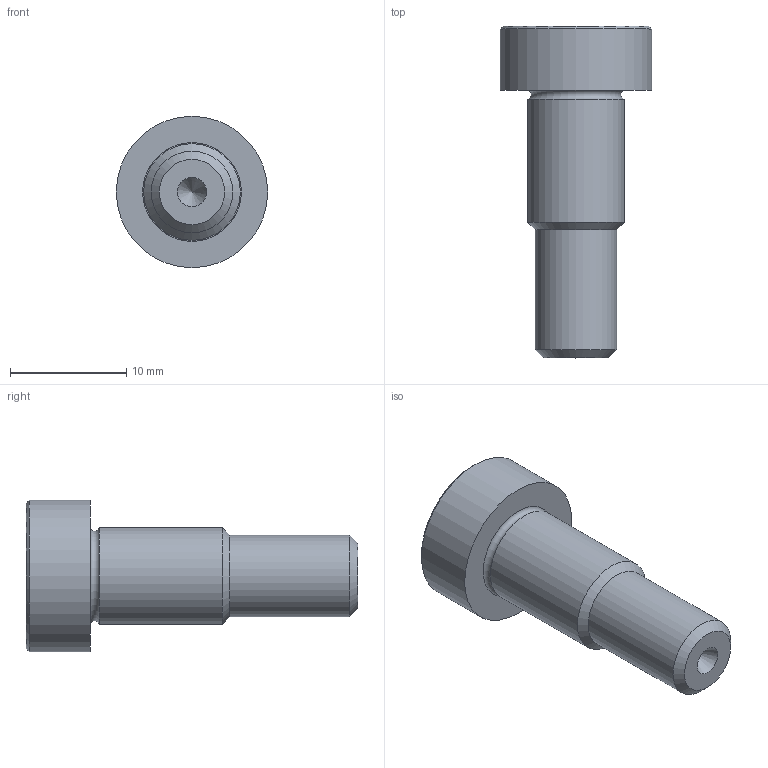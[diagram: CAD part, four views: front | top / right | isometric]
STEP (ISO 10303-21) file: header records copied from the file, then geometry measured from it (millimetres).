
FILE_DESCRIPTION (( 'STEP AP214' ), '1' );
FILE_NAME ('SB87.STEP', '2025-08-11T11:41:28', ( '' ), ( '' ), 'SwSTEP 2.0', 'SolidWorks 2025', '' );
FILE_SCHEMA (( 'AUTOMOTIVE_DESIGN' ));
Length unit declared in the file: millimetre
Products named in the file (1): SB87
Bounding box: 13 x 28.5 x 13 mm (x, y, z)
Volume: 1663.5 mm3; surface area: 1112.9 mm2
Topology: 1 solids, 1 shells, 32 faces, 84 edges, 55 vertices
Faces by surface type: plane 21, cone 6, cylinder 4, torus 1
Full cylindrical faces by diameter (mm): 5.055 x1, 7 x1, 8.3 x1, 13 x1
Entity records: 917 total; most frequent: CARTESIAN_POINT 195, DIRECTION 144, ORIENTED_EDGE 132, EDGE_CURVE 66, AXIS2_PLACEMENT_3D 57, VERTEX_POINT 48, EDGE_LOOP 44, FACE_OUTER_BOUND 37
